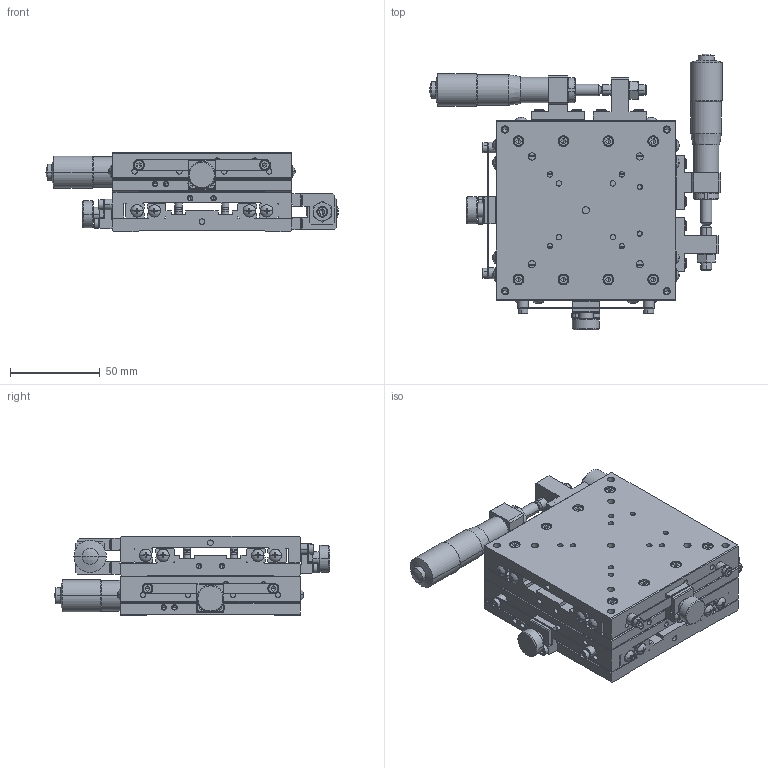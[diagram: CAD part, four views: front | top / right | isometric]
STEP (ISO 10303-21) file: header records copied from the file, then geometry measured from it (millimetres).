
FILE_DESCRIPTION (( 'STEP AP214' ), '1' );
FILE_NAME ('YM10A-S1.STEP', '2009-05-11T08:09:22', ( ' ' ), ( ' ' ), 'SwSTEP 2.0', 'SolidWorks 2008', '' );
FILE_SCHEMA (( 'AUTOMOTIVE_DESIGN' ));
Length unit declared in the file: millimetre
Products named in the file (6): 001130-1022(3D)-4; 001130-1011(3D)-2; 001130-1011(3D)-3; XM10A-S1(PL)-1; XM10A-S1(PL); YM10A-S1
Assembly tree (5 placements, depth 3):
  YM10A-S1
    XM10A-S1(PL)
      001130-1011(3D)-2
      001130-1022(3D)-4
    XM10A-S1(PL)-1
      001130-1011(3D)-3
Bounding box: 163 x 153.5 x 44 mm (x, y, z)
Volume: 416356.7 mm3; surface area: 164164.7 mm2
Topology: 3 solids, 115 shells, 3746 faces, 8746 edges, 5234 vertices
Faces by surface type: plane 1722, cylinder 1136, cone 816, sphere 40, torus 32
Entity records: 105761 total; most frequent: DIRECTION 19560, CARTESIAN_POINT 18444, ORIENTED_EDGE 17036, EDGE_CURVE 8518, AXIS2_PLACEMENT_3D 7462, VERTEX_POINT 5234, VECTOR 4636, LINE 4636
